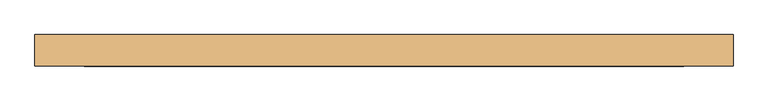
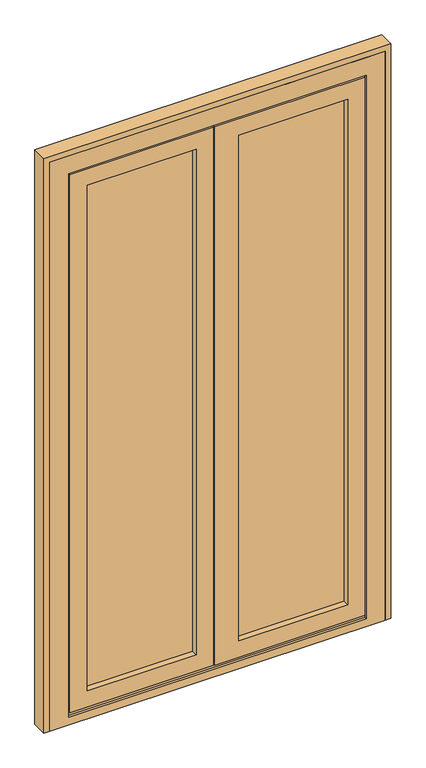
"""IFC4 building model written with IfcOpenShell, lengths in millimetres: door geometry, Дверь.Alumark_двупольная_S54 : 1160х2080 Открывание наружу (СП 24мм Обычный)."""

from ifc_helpers import new_model, si_unit, frame, origin, place, context, project, spatial, polyline, outline, extrude, faceted_brep, source, transform, mapped, element, save


def door_1e8aae34(model_context):
    return source(origin(), model_context, "Body", "SolidModel", [
        extrude(outline(polyline([(69.0, 68.0), (-343.0, 68.0), (-343.0, 91.0), (69.0, 91.0), (69.0, 68.0)])), frame((0.0, 0.0, 84.0), z_axis=(0.0, 0.0, 1.0), x_axis=(1.0, 0.0, 0.0)), (0.0, 0.0, 1.0), 1884.0),
        extrude(outline(polyline([(593.0, 68.0), (181.0, 68.0), (181.0, 91.0), (593.0, 91.0), (593.0, 68.0)])), frame((0.0, 0.0, 84.0), z_axis=(0.0, 0.0, 1.0), x_axis=(1.0, 0.0, 0.0)), (0.0, 0.0, 1.0), 1869.0),
        faceted_brep([(-408.0, 92.0, 19.0), (-408.0, 100.0, 19.0), (134.0, 100.0, 19.0), (134.0, 92.0, 19.0), (-390.0, 92.0, 19.0), (-390.0, 54.0, 19.0), (-399.0, 54.0, 19.0), (-399.0, 92.0, 19.0), (658.0, 92.0, 19.0), (649.0, 92.0, 19.0), (649.0, 54.0, 19.0), (640.0, 54.0, 19.0), (640.0, 92.0, 19.0), (139.0, 92.0, 19.0), (139.0, 100.0, 19.0), (658.0, 100.0, 19.0), (-408.0, 92.0, 2033.0), (-408.0, 100.0, 2033.0), (134.0, 100.0, 2033.0), (-325.0, 100.0, 1950.0), (-325.0, 100.0, 102.0), (51.0, 100.0, 102.0), (51.0, 100.0, 1950.0), (658.0, 100.0, 2033.0), (139.0, 100.0, 2033.0), (575.0, 100.0, 102.0), (575.0, 100.0, 1950.0), (199.0, 100.0, 1950.0), (199.0, 100.0, 102.0), (-325.0, 91.0, 1950.0), (-325.0, 91.0, 102.0), (-343.0, 91.0, 1968.0), (-343.0, 91.0, 84.0), (69.0, 91.0, 84.0), (69.0, 91.0, 1968.0), (51.0, 91.0, 1950.0), (51.0, 91.0, 102.0), (593.0, 91.0, 84.0), (593.0, 91.0, 1968.0), (181.0, 91.0, 1968.0), (181.0, 91.0, 84.0), (575.0, 91.0, 1950.0), (575.0, 91.0, 102.0), (199.0, 91.0, 102.0), (199.0, 91.0, 1950.0), (-343.0, 68.0, 1968.0), (-343.0, 68.0, 84.0), (69.0, 68.0, 1968.0), (69.0, 68.0, 84.0), (-325.0, 68.0, 1950.0), (-325.0, 68.0, 102.0), (51.0, 68.0, 102.0), (51.0, 68.0, 1950.0), (593.0, 68.0, 1968.0), (593.0, 68.0, 84.0), (181.0, 68.0, 84.0), (181.0, 68.0, 1968.0), (575.0, 68.0, 102.0), (575.0, 68.0, 1950.0), (199.0, 68.0, 1950.0), (199.0, 68.0, 102.0), (-325.0, 46.0, 1950.0), (-325.0, 46.0, 102.0), (-385.0, 46.0, 2010.0), (-385.0, 46.0, 42.0), (111.0, 46.0, 42.0), (111.0, 46.0, 2010.0), (51.0, 46.0, 1950.0), (51.0, 46.0, 102.0), (635.0, 46.0, 42.0), (635.0, 46.0, 2010.0), (116.0, 46.0, 2010.0), (116.0, 46.0, 42.0), (575.0, 46.0, 1950.0), (575.0, 46.0, 102.0), (199.0, 46.0, 102.0), (199.0, 46.0, 1950.0), (-385.0, 54.0, 2010.0), (-385.0, 54.0, 42.0), (649.0, 54.0, 2024.0), (-399.0, 54.0, 2024.0), (-390.0, 54.0, 28.0), (640.0, 54.0, 28.0), (635.0, 54.0, 2010.0), (635.0, 54.0, 42.0), (116.0, 54.0, 42.0), (116.0, 54.0, 2010.0), (111.0, 54.0, 42.0), (111.0, 54.0, 2010.0), (-399.0, 92.0, 2024.0), (134.0, 92.0, 2024.0), (134.0, 92.0, 2033.0), (649.0, 92.0, 2024.0), (658.0, 92.0, 2033.0), (139.0, 92.0, 2033.0), (139.0, 92.0, 2024.0), (640.0, 92.0, 28.0), (-390.0, 92.0, 28.0), (134.0, 92.0, 28.0), (139.0, 92.0, 28.0)], [[[0, 1, 2, 3, 4, 5, 6, 7]], [[8, 9, 10, 11, 12, 13, 14, 15]], [[1, 0, 16, 17]], [[1, 17, 18, 2], [19, 20, 21, 22]], [[23, 15, 14, 24], [25, 26, 27, 28]], [[19, 29, 30, 20]], [[31, 32, 33, 34], [30, 29, 35, 36]], [[37, 38, 39, 40], [41, 42, 43, 44]], [[31, 45, 46, 32]], [[46, 45, 47, 48], [49, 50, 51, 52]], [[53, 54, 55, 56], [57, 58, 59, 60]], [[49, 61, 62, 50]], [[63, 64, 65, 66], [62, 61, 67, 68]], [[69, 70, 71, 72], [73, 74, 75, 76]], [[63, 77, 78, 64]], [[10, 79, 80, 6, 5, 81, 82, 11], [83, 84, 85, 86], [87, 78, 77, 88]], [[7, 6, 80, 89]], [[0, 7, 89, 90, 91, 16]], [[92, 9, 8, 93, 94, 95]], [[17, 16, 91, 18]], [[93, 23, 24, 94]], [[29, 19, 22, 35]], [[26, 41, 44, 27]], [[45, 31, 34, 47]], [[38, 53, 56, 39]], [[61, 49, 52, 67]], [[58, 73, 76, 59]], [[77, 63, 66, 88]], [[70, 83, 86, 71]], [[80, 79, 92, 95, 90, 89]], [[15, 23, 93, 8]], [[41, 26, 25, 42]], [[53, 38, 37, 54]], [[73, 58, 57, 74]], [[83, 70, 69, 84]], [[79, 10, 9, 92]], [[20, 30, 36, 21]], [[42, 25, 28, 43]], [[32, 46, 48, 33]], [[54, 37, 40, 55]], [[50, 62, 68, 51]], [[74, 57, 60, 75]], [[82, 96, 12, 11]], [[97, 81, 5, 4]], [[96, 82, 81, 97, 98, 99]], [[64, 78, 87, 65]], [[84, 69, 72, 85]], [[71, 86, 85, 72]], [[76, 75, 60, 59]], [[39, 56, 55, 40]], [[44, 43, 28, 27]], [[14, 13, 99, 95, 94, 24]], [[90, 95, 99, 98]], [[3, 2, 18, 91, 90, 98]], [[36, 35, 22, 21]], [[47, 34, 33, 48]], [[68, 67, 52, 51]], [[65, 87, 88, 66]], [[12, 96, 99, 13]], [[97, 4, 3, 98]]]),
        faceted_brep([(-455.0, 46.0, 0.0), (-455.0, 100.0, 0.0), (705.0, 100.0, 0.0), (705.0, 46.0, 0.0), (-455.0, 100.0, 2080.0), (705.0, 100.0, 2080.0), (663.0, 100.0, 2038.0), (-413.0, 100.0, 2038.0), (-413.0, 100.0, 8.0), (663.0, 100.0, 8.0), (-413.0, 92.0, 2038.0), (-413.0, 92.0, 8.0), (663.0, 92.0, 2038.0), (663.0, 92.0, 8.0), (-399.0, 92.0, 2024.0), (-399.0, 92.0, 28.0), (134.0, 92.0, 28.0), (139.0, 92.0, 28.0), (649.0, 92.0, 28.0), (649.0, 92.0, 2024.0), (139.0, 92.0, 2024.0), (134.0, 92.0, 2024.0), (-399.0, 54.0, 2024.0), (-399.0, 54.0, 28.0), (649.0, 54.0, 2024.0), (649.0, 54.0, 28.0), (640.0, 54.0, 28.0), (640.0, 54.0, 2015.0), (116.0, 54.0, 2015.0), (111.0, 54.0, 2015.0), (-390.0, 54.0, 2015.0), (-390.0, 54.0, 28.0), (-390.0, 46.0, 2015.0), (-390.0, 46.0, 28.0), (705.0, 46.0, 2080.0), (-455.0, 46.0, 2080.0), (111.0, 46.0, 2015.0), (116.0, 46.0, 2015.0), (640.0, 46.0, 2015.0), (640.0, 46.0, 28.0)], [[[0, 1, 2, 3]], [[4, 5, 2, 1], [6, 7, 8, 9]], [[7, 10, 11, 8]], [[10, 12, 13, 11], [14, 15, 16, 17, 18, 19, 20, 21]], [[14, 22, 23, 15]], [[22, 24, 25, 26, 27, 28, 29, 30, 31, 23]], [[30, 32, 33, 31]], [[34, 35, 0, 3], [33, 32, 36, 37, 38, 39]], [[1, 0, 35, 4]], [[7, 6, 12, 10]], [[22, 14, 21, 20, 19, 24]], [[32, 30, 29, 28, 27, 38, 37, 36]], [[5, 4, 35, 34]], [[12, 6, 9, 13]], [[24, 19, 18, 25]], [[38, 27, 26, 39]], [[5, 34, 3, 2]], [[9, 8, 11, 13]], [[33, 39, 26, 25, 18, 17, 16, 15, 23, 31]]]),
        extrude(outline(polyline([(2100.0, -475.0), (0.0, -475.0), (0.0, -455.0), (2080.0, -455.0), (2080.0, 705.0), (0.0, 705.0), (0.0, 725.0), (2100.0, 725.0), (2100.0, -475.0)])), frame((0.0, 46.0, 0.0), z_axis=(0.0, 1.0, 0.0), x_axis=(0.0, 0.0, 1.0)), (0.0, 0.0, 1.0), 54.0),
    ])


if __name__ == "__main__":
    model = new_model("IFC4")
    model_context = context("Model", 3, world=origin())
    ifc_project = project(units=[si_unit("LENGTHUNIT", "METRE", prefix="MILLI")], contexts=[model_context])
    site = spatial("IfcSite", under=ifc_project)
    building = spatial("IfcBuilding", under=site)
    placement = place(None, origin())
    door_shape = door_1e8aae34(model_context)
    element("IfcDoor", 1, ObjectType="Дверь.Alumark_двупольная_S54 : 1160х2080 Открывание наружу (СП 24мм Обычный)", at=placement, inside=building, context=model_context, shape_type="MappedRepresentation", body=[
        mapped(door_shape, transform((0.0, 0.0, 0.0), x_axis=(1.0, 0.0, 0.0), y_axis=(0.0, 1.0, 0.0), z_axis=(0.0, 0.0, 1.0))),
    ])
    save(model, "model.ifc")
